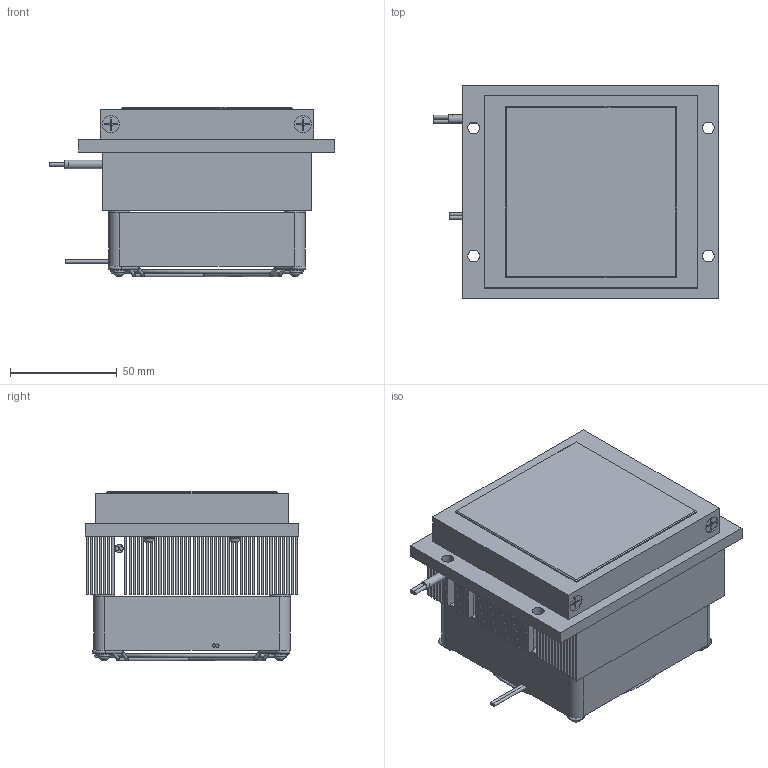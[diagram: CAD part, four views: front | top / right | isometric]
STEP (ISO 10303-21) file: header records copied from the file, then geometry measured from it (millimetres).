
FILE_DESCRIPTION(('STEP AP214'),'1');
FILE_NAME('TKG-311-130.stp','2026-03-16T05:56:31',(' '),(' '),'Spatial InterOp 3D',' ',' ');
FILE_SCHEMA(('AUTOMOTIVE_DESIGN { 1 0 10303 214 1 1 1 1 }'));
Length unit declared in the file: metre
Products named in the file (13): TKG-311-130; ﾋｰﾄｼﾝｸ; 樹脂枠; 冷却板; 皿ネジ; M3ネジ; 平ワッシャー; フィンガーガード; ネジ(ファンモーター用); 製造番号シール; ファンリード線; ペルチェリード線; ＤＣファンモーター
Assembly tree (12 placements, depth 2):
  TKG-311-130
    ﾋｰﾄｼﾝｸ
    樹脂枠
    冷却板
    皿ネジ
    M3ネジ
    平ワッシャー
    フィンガーガード
    ネジ(ファンモーター用)
    製造番号シール
    ファンリード線
    ペルチェリード線
    ＤＣファンモーター
Bounding box: 134 x 100 x 79.4 mm (x, y, z)
Volume: 547692.2 mm3; surface area: 364274.5 mm2
Topology: 38 solids, 43 shells, 731 faces, 1856 edges, 1151 vertices
Faces by surface type: plane 578, cylinder 118, torus 27, bspline 8
Full cylindrical faces by diameter (mm): 1.5 x4, 1.6 x24, 1.8 x2, 1.85 x2, 3 x4, 3.4 x4, 3.5 x4, 4 x5, 5.5 x12, 6 x4, 8 x12, 10 x4
Entity records: 27198 total; most frequent: CARTESIAN_POINT 4582, DIRECTION 3214, ORIENTED_EDGE 3110, EDGE_CURVE 1569, LINE 1170, VECTOR 1170, VERTEX_POINT 1112, AXIS2_PLACEMENT_3D 1022
